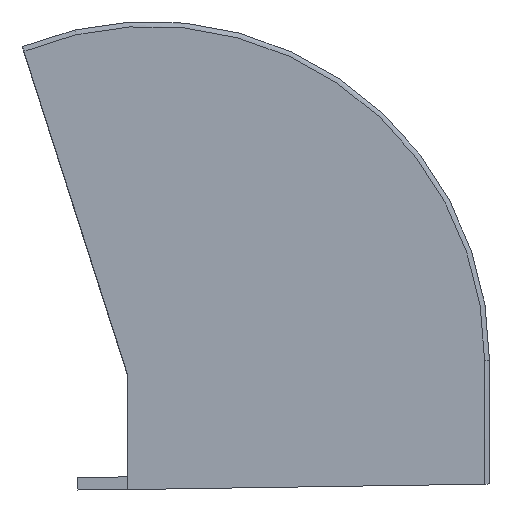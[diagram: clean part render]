
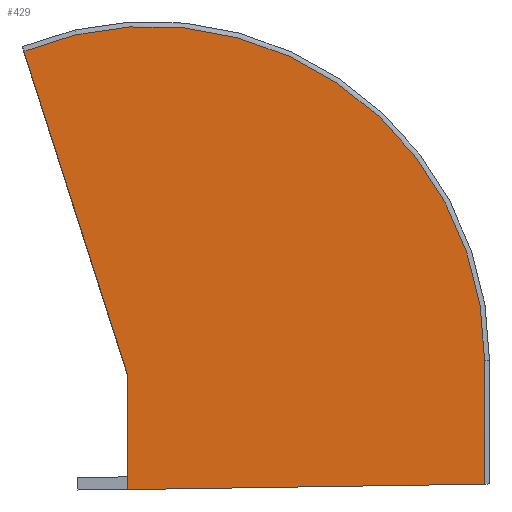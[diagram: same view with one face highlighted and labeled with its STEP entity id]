
A CAD part, top view. The second image highlights one B-rep face of the part: STEP entity #429.
In plain terms, the highlighted planar face has unit normal (0, 0, 1).
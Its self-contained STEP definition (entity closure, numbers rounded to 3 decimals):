
#26=CIRCLE('',#460,40.644);
#42=FACE_OUTER_BOUND('',#67,.T.);
#67=EDGE_LOOP('',(#305,#306,#307,#308,#309));
#92=B_SPLINE_CURVE_WITH_KNOTS('',3,(#691,#692,#693,#694),.UNSPECIFIED.,
 .F.,.F.,(4,4),(19.111,62.58),.UNSPECIFIED.);
#114=LINE('',#633,#147);
#117=LINE('',#689,#150);
#118=LINE('',#695,#151);
#147=VECTOR('',#498,1.);
#150=VECTOR('',#521,10.);
#151=VECTOR('',#522,1.);
#182=VERTEX_POINT('',#630);
#183=VERTEX_POINT('',#632);
#189=VERTEX_POINT('',#684);
#190=VERTEX_POINT('',#688);
#191=VERTEX_POINT('',#690);
#224=EDGE_CURVE('',#183,#182,#114,.T.);
#233=EDGE_CURVE('',#183,#189,#26,.T.);
#235=EDGE_CURVE('',#182,#190,#117,.T.);
#236=EDGE_CURVE('',#190,#191,#92,.T.);
#237=EDGE_CURVE('',#189,#191,#118,.T.);
#305=ORIENTED_EDGE('',*,*,#224,.T.);
#306=ORIENTED_EDGE('',*,*,#235,.T.);
#307=ORIENTED_EDGE('',*,*,#236,.T.);
#308=ORIENTED_EDGE('',*,*,#237,.F.);
#309=ORIENTED_EDGE('',*,*,#233,.F.);
#412=PLANE('',#462);
#429=ADVANCED_FACE('',(#42),#412,.T.);
#460=AXIS2_PLACEMENT_3D('',#685,#515,#516);
#462=AXIS2_PLACEMENT_3D('',#687,#519,#520);
#498=DIRECTION('',(0.305,-0.952,0.));
#515=DIRECTION('center_axis',(0.,0.,
-1.));
#516=DIRECTION('ref_axis',(0.487,0.874,0.));
#519=DIRECTION('center_axis',(0.,0.,
1.));
#520=DIRECTION('ref_axis',(1.,0.,0.));
#521=DIRECTION('',(0.,-1.,0.));
#522=DIRECTION('',(0.,-1.,0.));
#630=CARTESIAN_POINT('',(371.877,130.919,42.227));
#632=CARTESIAN_POINT('',(359.262,170.283,42.227));
#633=CARTESIAN_POINT('',(352.731,190.662,42.227));
#684=CARTESIAN_POINT('',(415.341,132.684,42.227));
#685=CARTESIAN_POINT('Origin',(374.697,132.684,42.227));
#687=CARTESIAN_POINT('Origin',(386.017,211.548,42.227));
#688=CARTESIAN_POINT('',(371.877,116.921,42.227));
#689=CARTESIAN_POINT('',(371.877,114.015,42.227));
#690=CARTESIAN_POINT('',(415.341,117.583,42.227));
#691=CARTESIAN_POINT('Ctrl Pts',(371.877,116.921,42.227));
#692=CARTESIAN_POINT('Ctrl Pts',(386.365,117.142,42.227));
#693=CARTESIAN_POINT('Ctrl Pts',(400.853,117.363,42.227));
#694=CARTESIAN_POINT('Ctrl Pts',(415.341,117.583,42.227));
#695=CARTESIAN_POINT('',(415.341,164.249,42.227));
